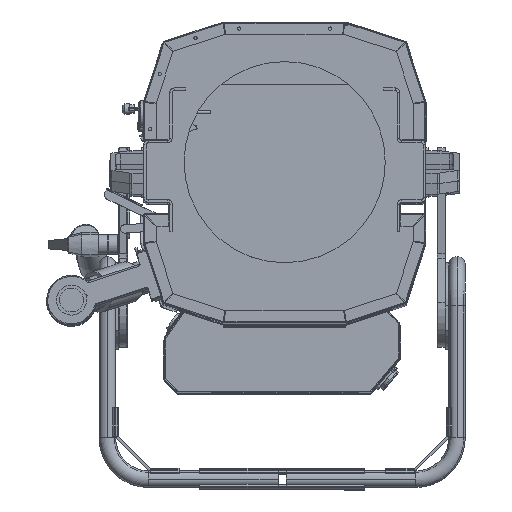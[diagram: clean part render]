
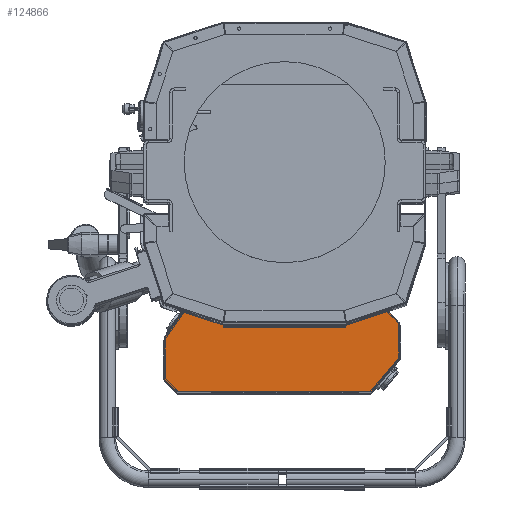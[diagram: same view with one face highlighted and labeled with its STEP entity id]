
A CAD part, top view. The second image highlights one B-rep face of the part: STEP entity #124866.
In plain terms, the highlighted planar face has unit normal (0, 0, 1).
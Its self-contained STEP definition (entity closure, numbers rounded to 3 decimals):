
#1160 = ORIENTED_EDGE ( 'NONE', *, *, #95616, .F. ) ;
#1286 = LINE ( 'NONE', #31702, #95614 ) ;
#1712 = CARTESIAN_POINT ( 'NONE',  ( 121.5, -156.396, 571.7 ) ) ;
#2671 = VECTOR ( 'NONE', #14320, 1000. ) ;
#2982 = LINE ( 'NONE', #92257, #91266 ) ;
#3282 = CARTESIAN_POINT ( 'NONE',  ( 105., -277.396, 571.7 ) ) ;
#3430 = VERTEX_POINT ( 'NONE', #157720 ) ;
#3534 = VECTOR ( 'NONE', #76209, 1000. ) ;
#4992 = CARTESIAN_POINT ( 'NONE',  ( -105., -156.396, 571.7 ) ) ;
#7401 = CARTESIAN_POINT ( 'NONE',  ( 139., -236.877, 571.7 ) ) ;
#7721 = ORIENTED_EDGE ( 'NONE', *, *, #67290, .F. ) ;
#7802 = ORIENTED_EDGE ( 'NONE', *, *, #23453, .F. ) ;
#7837 = VERTEX_POINT ( 'NONE', #77780 ) ;
#7886 = DIRECTION ( 'NONE',  ( 0.707, -0.707, 0. ) ) ;
#10294 = VERTEX_POINT ( 'NONE', #101913 ) ;
#10556 = VECTOR ( 'NONE', #86536, 1000. ) ;
#10985 = VERTEX_POINT ( 'NONE', #138732 ) ;
#13409 = ORIENTED_EDGE ( 'NONE', *, *, #68575, .F. ) ;
#14320 = DIRECTION ( 'NONE',  ( 0.574, 0.819, 0. ) ) ;
#14645 = VERTEX_POINT ( 'NONE', #56829 ) ;
#15093 = ORIENTED_EDGE ( 'NONE', *, *, #91916, .F. ) ;
#16557 = ORIENTED_EDGE ( 'NONE', *, *, #96651, .F. ) ;
#17053 = EDGE_CURVE ( 'NONE', #128902, #14645, #27627, .T. ) ;
#17177 = LINE ( 'NONE', #4992, #34430 ) ;
#22721 = CARTESIAN_POINT ( 'NONE',  ( -121.5, -156.396, 571.7 ) ) ;
#23453 = EDGE_CURVE ( 'NONE', #131309, #149003, #121953, .T. ) ;
#24240 = EDGE_CURVE ( 'NONE', #90487, #151310, #87063, .T. ) ;
#27627 = LINE ( 'NONE', #147411, #2671 ) ;
#27719 = DIRECTION ( 'NONE',  ( 0., -1., 0. ) ) ;
#28213 = LINE ( 'NONE', #152346, #78026 ) ;
#28969 = DIRECTION ( 'NONE',  ( 0., -1., 0. ) ) ;
#30994 = EDGE_LOOP ( 'NONE', ( #142112, #97156, #147101, #73605, #128094, #7721, #41714, #32427, #7802, #16557, #135760, #49630, #15093, #137590, #1160, #13409, #126737, #82425 ) ) ;
#31702 = CARTESIAN_POINT ( 'NONE',  ( -121.5, -176.396, 571.7 ) ) ;
#32217 = EDGE_CURVE ( 'NONE', #114701, #87461, #136723, .T. ) ;
#32427 = ORIENTED_EDGE ( 'NONE', *, *, #137708, .F. ) ;
#32436 = CARTESIAN_POINT ( 'NONE',  ( 139., -236.877, 571.7 ) ) ;
#34065 = EDGE_CURVE ( 'NONE', #151310, #77626, #17177, .T. ) ;
#34430 = VECTOR ( 'NONE', #116560, 1000. ) ;
#36101 = LINE ( 'NONE', #102788, #64903 ) ;
#36112 = LINE ( 'NONE', #3282, #3534 ) ;
#37011 = VECTOR ( 'NONE', #105329, 1000. ) ;
#39134 = CARTESIAN_POINT ( 'NONE',  ( -105., -156.396, 571.7 ) ) ;
#39344 = CARTESIAN_POINT ( 'NONE',  ( 102., -159.296, 571.7 ) ) ;
#39599 = CARTESIAN_POINT ( 'NONE',  ( 105., -156.396, 571.7 ) ) ;
#41714 = ORIENTED_EDGE ( 'NONE', *, *, #52746, .F. ) ;
#42023 = DIRECTION ( 'NONE',  ( -1., 0., 0. ) ) ;
#42270 = VECTOR ( 'NONE', #68382, 1000. ) ;
#42549 = DIRECTION ( 'NONE',  ( 0., 0., -1. ) ) ;
#42554 = LINE ( 'NONE', #51046, #59755 ) ;
#43226 = CARTESIAN_POINT ( 'NONE',  ( -102., -158.296, 571.7 ) ) ;
#43344 = DIRECTION ( 'NONE',  ( 1., 0., 0. ) ) ;
#45521 = VECTOR ( 'NONE', #110196, 1000. ) ;
#49630 = ORIENTED_EDGE ( 'NONE', *, *, #32217, .F. ) ;
#50977 = EDGE_CURVE ( 'NONE', #77626, #143130, #94407, .T. ) ;
#51046 = CARTESIAN_POINT ( 'NONE',  ( -130.3, -277.396, 571.7 ) ) ;
#51826 = CARTESIAN_POINT ( 'NONE',  ( -130.3, -277.396, 571.7 ) ) ;
#52236 = CARTESIAN_POINT ( 'NONE',  ( -102., -159.296, 571.7 ) ) ;
#52746 = EDGE_CURVE ( 'NONE', #10985, #91000, #36112, .T. ) ;
#53805 = LINE ( 'NONE', #43226, #42270 ) ;
#54268 = VECTOR ( 'NONE', #126468, 1000. ) ;
#56462 = CARTESIAN_POINT ( 'NONE',  ( -146., -261.696, 571.7 ) ) ;
#56615 = VECTOR ( 'NONE', #105446, 1000. ) ;
#56826 = DIRECTION ( 'NONE',  ( 0., 1., 0. ) ) ;
#56829 = CARTESIAN_POINT ( 'NONE',  ( -121.5, -176.396, 571.7 ) ) ;
#59755 = VECTOR ( 'NONE', #63339, 1000. ) ;
#63243 = VERTEX_POINT ( 'NONE', #105904 ) ;
#63339 = DIRECTION ( 'NONE',  ( -0.707, 0.707, 0. ) ) ;
#64333 = CARTESIAN_POINT ( 'NONE',  ( -121.5, -156.396, 571.7 ) ) ;
#64903 = VECTOR ( 'NONE', #27719, 1000. ) ;
#67290 = EDGE_CURVE ( 'NONE', #91000, #7837, #42554, .T. ) ;
#68382 = DIRECTION ( 'NONE',  ( 1., 0., 0. ) ) ;
#68575 = EDGE_CURVE ( 'NONE', #63243, #3430, #53805, .T. ) ;
#73605 = ORIENTED_EDGE ( 'NONE', *, *, #17053, .F. ) ;
#76209 = DIRECTION ( 'NONE',  ( -1., 0., 0. ) ) ;
#77626 = VERTEX_POINT ( 'NONE', #156521 ) ;
#77780 = CARTESIAN_POINT ( 'NONE',  ( -146., -261.696, 571.7 ) ) ;
#77953 = CARTESIAN_POINT ( 'NONE',  ( 0., -277.396, 571.7 ) ) ;
#78026 = VECTOR ( 'NONE', #28969, 1000. ) ;
#78168 = EDGE_CURVE ( 'NONE', #143130, #63243, #145026, .T. ) ;
#78879 = EDGE_CURVE ( 'NONE', #7837, #128902, #91048, .T. ) ;
#82425 = ORIENTED_EDGE ( 'NONE', *, *, #50977, .F. ) ;
#83780 = FACE_OUTER_BOUND ( 'NONE', #30994, .T. ) ;
#84483 = AXIS2_PLACEMENT_3D ( 'NONE', #77953, #42549, #42023 ) ;
#86536 = DIRECTION ( 'NONE',  ( 0., 1., 0. ) ) ;
#87063 = LINE ( 'NONE', #117388, #148491 ) ;
#87461 = VERTEX_POINT ( 'NONE', #1712 ) ;
#90487 = VERTEX_POINT ( 'NONE', #64333 ) ;
#90970 = EDGE_CURVE ( 'NONE', #87461, #138099, #36101, .T. ) ;
#91000 = VERTEX_POINT ( 'NONE', #51826 ) ;
#91048 = LINE ( 'NONE', #56462, #37011 ) ;
#91266 = VECTOR ( 'NONE', #7886, 1000. ) ;
#91916 = EDGE_CURVE ( 'NONE', #10294, #114701, #108060, .T. ) ;
#92257 = CARTESIAN_POINT ( 'NONE',  ( 121.5, -176.396, 571.7 ) ) ;
#93186 = CARTESIAN_POINT ( 'NONE',  ( 139., -193.896, 571.7 ) ) ;
#94407 = LINE ( 'NONE', #116879, #140405 ) ;
#95614 = VECTOR ( 'NONE', #56826, 1000. ) ;
#95616 = EDGE_CURVE ( 'NONE', #3430, #117988, #28213, .T. ) ;
#96651 = EDGE_CURVE ( 'NONE', #138099, #131309, #2982, .T. ) ;
#97156 = ORIENTED_EDGE ( 'NONE', *, *, #24240, .F. ) ;
#98365 = VECTOR ( 'NONE', #122512, 1000. ) ;
#101913 = CARTESIAN_POINT ( 'NONE',  ( 105., -159.296, 571.7 ) ) ;
#102788 = CARTESIAN_POINT ( 'NONE',  ( 121.5, -156.396, 571.7 ) ) ;
#105329 = DIRECTION ( 'NONE',  ( 0., 1., 0. ) ) ;
#105446 = DIRECTION ( 'NONE',  ( 0., -1., 0. ) ) ;
#105904 = CARTESIAN_POINT ( 'NONE',  ( -102., -158.296, 571.7 ) ) ;
#106625 = DIRECTION ( 'NONE',  ( 1., 0., 0. ) ) ;
#108060 = LINE ( 'NONE', #127519, #54268 ) ;
#110196 = DIRECTION ( 'NONE',  ( -0.643, -0.766, 0. ) ) ;
#112744 = CARTESIAN_POINT ( 'NONE',  ( -102., -159.296, 571.7 ) ) ;
#114701 = VERTEX_POINT ( 'NONE', #39599 ) ;
#115478 = LINE ( 'NONE', #39344, #150046 ) ;
#116560 = DIRECTION ( 'NONE',  ( 0., -1., 0. ) ) ;
#116879 = CARTESIAN_POINT ( 'NONE',  ( -105., -159.296, 571.7 ) ) ;
#117071 = CARTESIAN_POINT ( 'NONE',  ( 121.5, -176.396, 571.7 ) ) ;
#117388 = CARTESIAN_POINT ( 'NONE',  ( -121.5, -156.396, 571.7 ) ) ;
#117988 = VERTEX_POINT ( 'NONE', #125287 ) ;
#121953 = LINE ( 'NONE', #93186, #56615 ) ;
#122512 = DIRECTION ( 'NONE',  ( 1., 0., 0. ) ) ;
#124275 = LINE ( 'NONE', #32436, #45521 ) ;
#124866 = ADVANCED_FACE ( 'NONE', ( #83780 ), #139716, .F. ) ;
#125266 = DIRECTION ( 'NONE',  ( 1., 0., 0. ) ) ;
#125287 = CARTESIAN_POINT ( 'NONE',  ( 102., -159.296, 571.7 ) ) ;
#126468 = DIRECTION ( 'NONE',  ( 0., 1., 0. ) ) ;
#126737 = ORIENTED_EDGE ( 'NONE', *, *, #78168, .F. ) ;
#127519 = CARTESIAN_POINT ( 'NONE',  ( 105., -159.296, 571.7 ) ) ;
#128094 = ORIENTED_EDGE ( 'NONE', *, *, #78879, .F. ) ;
#128902 = VERTEX_POINT ( 'NONE', #142518 ) ;
#131309 = VERTEX_POINT ( 'NONE', #134398 ) ;
#134398 = CARTESIAN_POINT ( 'NONE',  ( 139., -193.896, 571.7 ) ) ;
#135760 = ORIENTED_EDGE ( 'NONE', *, *, #90970, .F. ) ;
#136723 = LINE ( 'NONE', #22721, #98365 ) ;
#137590 = ORIENTED_EDGE ( 'NONE', *, *, #152489, .F. ) ;
#137708 = EDGE_CURVE ( 'NONE', #149003, #10985, #124275, .T. ) ;
#138099 = VERTEX_POINT ( 'NONE', #117071 ) ;
#138732 = CARTESIAN_POINT ( 'NONE',  ( 105., -277.396, 571.7 ) ) ;
#139716 = PLANE ( 'NONE',  #84483 ) ;
#140405 = VECTOR ( 'NONE', #43344, 1000. ) ;
#142112 = ORIENTED_EDGE ( 'NONE', *, *, #34065, .F. ) ;
#142518 = CARTESIAN_POINT ( 'NONE',  ( -146., -211.386, 571.7 ) ) ;
#143130 = VERTEX_POINT ( 'NONE', #52236 ) ;
#145026 = LINE ( 'NONE', #112744, #10556 ) ;
#146843 = EDGE_CURVE ( 'NONE', #14645, #90487, #1286, .T. ) ;
#147101 = ORIENTED_EDGE ( 'NONE', *, *, #146843, .F. ) ;
#147411 = CARTESIAN_POINT ( 'NONE',  ( -146., -211.386, 571.7 ) ) ;
#148491 = VECTOR ( 'NONE', #106625, 1000. ) ;
#149003 = VERTEX_POINT ( 'NONE', #7401 ) ;
#150046 = VECTOR ( 'NONE', #125266, 1000. ) ;
#151310 = VERTEX_POINT ( 'NONE', #39134 ) ;
#152346 = CARTESIAN_POINT ( 'NONE',  ( 102., -158.296, 571.7 ) ) ;
#152489 = EDGE_CURVE ( 'NONE', #117988, #10294, #115478, .T. ) ;
#156521 = CARTESIAN_POINT ( 'NONE',  ( -105., -159.296, 571.7 ) ) ;
#157720 = CARTESIAN_POINT ( 'NONE',  ( 102., -158.296, 571.7 ) ) ;
